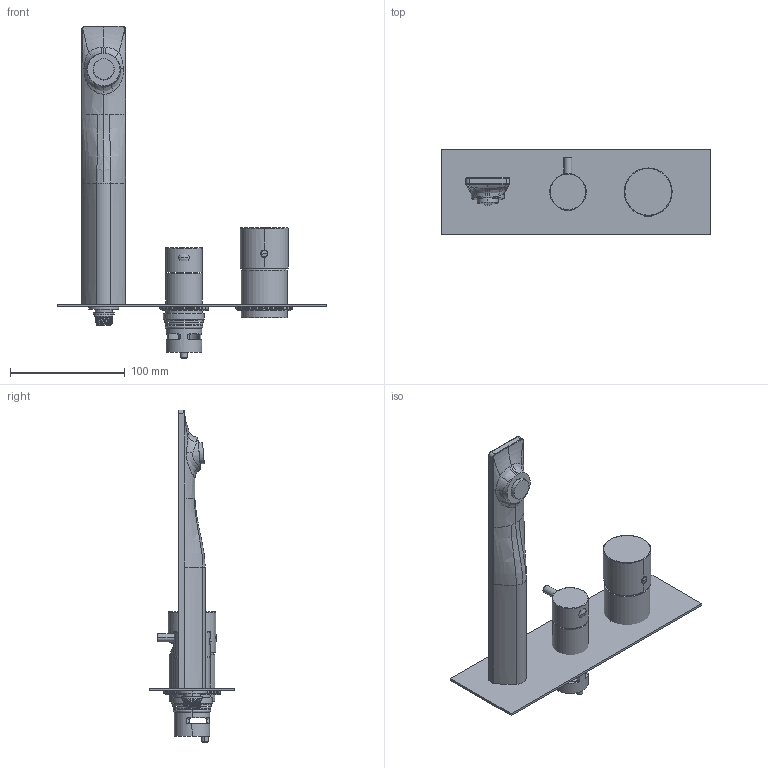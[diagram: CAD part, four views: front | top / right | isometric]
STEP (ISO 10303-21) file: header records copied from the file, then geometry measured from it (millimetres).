
FILE_DESCRIPTION((''),'2;1');
FILE_NAME('78528SV3_SW0001','2023-06-01T09:19:35',('volponeff'),(''),'CREO PARAMETRIC BY PTC INC, 2022014','CREO PARAMETRIC BY PTC INC, 2022014','');
FILE_SCHEMA(('CONFIG_CONTROL_DESIGN'));
Length unit declared in the file: millimetre
Products named in the file (1): 78528SV3_SW0001
Bounding box: 235 x 75 x 289.6 mm (x, y, z)
Surface area: 107998.8 mm2 (no closed solid volume)
Topology: 0 solids, 26 shells, 229 faces, 671 edges, 460 vertices
Faces by surface type: cylinder 78, plane 48, bspline 38, cone 33, torus 24, extrusion 4, sphere 4
Entity records: 10788 total; most frequent: CARTESIAN_POINT 4891, DIRECTION 1262, ORIENTED_EDGE 1140, EDGE_CURVE 667, AXIS2_PLACEMENT_3D 520, VERTEX_POINT 460, CIRCLE 333, EDGE_LOOP 229
